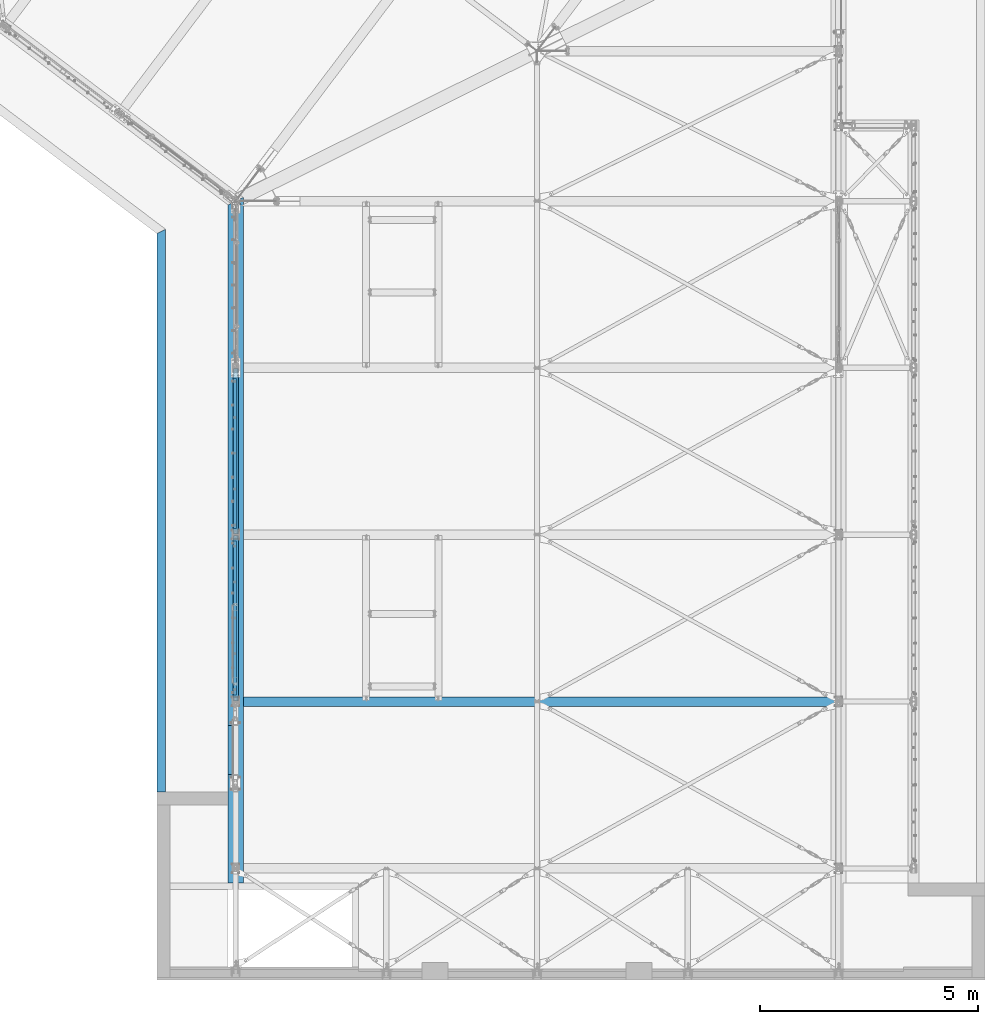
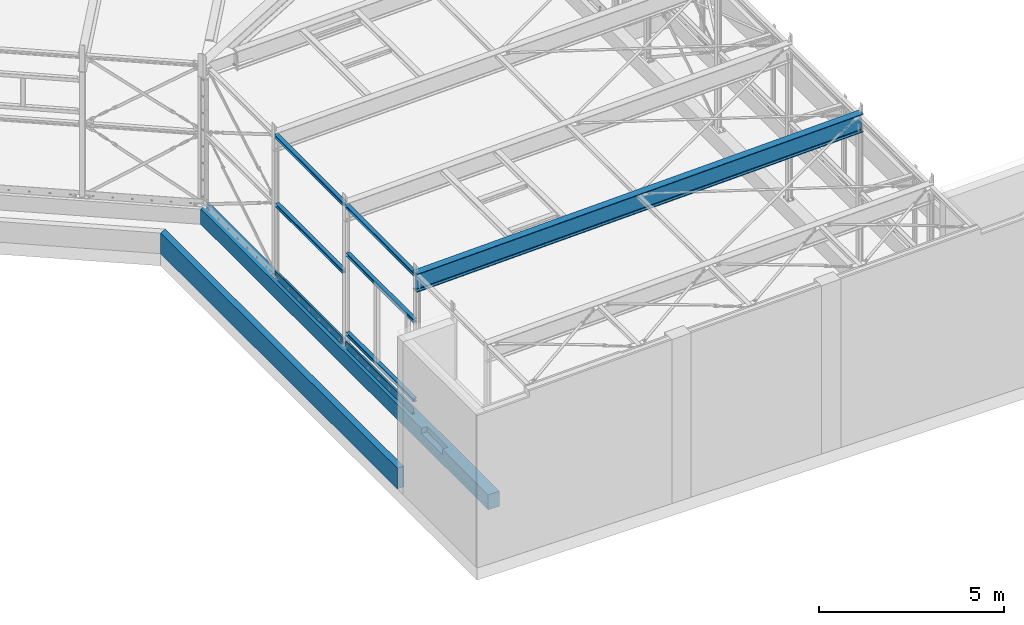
# One storey, part 13 of 476: 9 beams, 1 member, 65 openings.
"""IFC2X3 building model written with IfcOpenShell, lengths in millimetres."""

from ifc_helpers import new_model, entity, si_unit, converted_unit, frame, frame_2d, origin, origin_with_axes, origin_2d, origin_2d_with_axis, place, context, project, spatial, polyline, circle, i_section, l_section, outline, extrude, clip, halfspace, material, element, save


model = new_model("IFC2X3")

# Units and contexts
model_context = context("Model", 3, precision=1e-09, world=origin_with_axes())
ifc_project = project(units=[si_unit("LENGTHUNIT", "METRE", prefix="MILLI"), si_unit("AREAUNIT", "SQUARE_METRE"), si_unit("VOLUMEUNIT", "CUBIC_METRE"), converted_unit("PLANEANGLEUNIT", "DEGREE", entity("IfcPlaneAngleMeasure", 0.01745329), si_unit("PLANEANGLEUNIT", "RADIAN"), dimensions=[0, 0, 0, 0, 0, 0, 0])], contexts=[model_context])

# Site, building, storey
site_placement = place(None, origin_with_axes())
site = spatial("IfcSite", under=ifc_project, at=site_placement, Name="mKR Teilneubau & Sanierung BA1 - Ostfildern", CompositionType="ELEMENT")
building_placement = place(site_placement, origin_with_axes())
building = spatial("IfcBuilding", under=site, at=building_placement, Name="Struktur 1", CompositionType="ELEMENT")
storey_placement = place(building_placement, origin_with_axes())
storey = spatial("IfcBuildingStorey", under=building, at=storey_placement, Name="Default Storey", CompositionType="ELEMENT", Elevation=0.0)

# Beam, openings
ifc_material_1 = material(Name="S235JR")
beam_1_placement = place(None, frame((8165.608780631, -13502.915193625, 983.0), z_axis=(0.0, 1.0, 0.0), x_axis=(-1.0, 0.0, 0.0)))
beam_1 = element("IfcBeam", 1, at=beam_1_placement, inside=storey, material=ifc_material_1, Name="-", ObjectType="-", context=model_context, shape_type="Clipping", body=[
    clip(clip(extrude(i_section(OverallWidth=120.0, OverallDepth=114.0, WebThickness=5.0, FlangeThickness=8.0, FilletRadius=12.0, at=origin_2d()), origin(), (0.0, 0.0, -1.0), 3985.51737069), halfspace(frame((8165.608780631, -983.0, -182.759685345), z_axis=(0.0, 0.0, -1.0), x_axis=(-1.0, 0.0, 0.0)), True)), halfspace(frame((8165.608780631, -983.0, -3802.757685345), z_axis=(0.0, 0.0, 1.0), x_axis=(1.0, 0.0, 0.0)), True)),
])
opening_1_placement = place(beam_1_placement, frame((6.49997598, 48.5, -1672.40127366), z_axis=(0.0, 1.0, 0.0), x_axis=(0.0, 0.0, -1.0)))
element("IfcOpeningElement", 2, at=opening_1_placement, cuts=beam_1, ObjectType="Opening", context=model_context, shape_type="SweptSolid", body=[
    extrude(circle(Radius=6.001, at=frame_2d((0.0, 35.0), x_axis=(1.0, 0.0))), origin(), (0.0, 0.0, 1.0), 9.0),
])
opening_2_placement = place(beam_1_placement, frame((6.49997598, 48.5, -1672.40127366), z_axis=(0.0, 1.0, 0.0), x_axis=(0.0, 0.0, -1.0)))
element("IfcOpeningElement", 3, at=opening_2_placement, cuts=beam_1, ObjectType="Opening", context=model_context, shape_type="SweptSolid", body=[
    extrude(circle(Radius=6.001, at=frame_2d((0.0, -35.0), x_axis=(1.0, 0.0))), origin(), (0.0, 0.0, 1.0), 9.0),
])
opening_3_placement = place(beam_1_placement, frame((-28.50002402, 48.5, -3518.40227366), z_axis=(0.0, -1.0, 0.0), x_axis=(1.0, 0.0, 0.0)))
element("IfcOpeningElement", 4, at=opening_3_placement, cuts=beam_1, ObjectType="Opening", context=model_context, shape_type="SweptSolid", body=[
    extrude(circle(Radius=6.001, at=frame_2d((0.0, 6.001), x_axis=(1.0, 0.0))), origin(), (0.0, 0.0, -1.0), 9.0),
])
opening_4_placement = place(beam_1_placement, frame((41.49997598, 48.5, -3518.40227366), z_axis=(0.0, -1.0, 0.0), x_axis=(1.0, 0.0, 0.0)))
element("IfcOpeningElement", 5, at=opening_4_placement, cuts=beam_1, ObjectType="Opening", context=model_context, shape_type="SweptSolid", body=[
    extrude(circle(Radius=6.001, at=frame_2d((0.0, 6.001), x_axis=(1.0, 0.0))), origin(), (0.0, 0.0, -1.0), 9.0),
])

# Member, openings
member_placement = place(None, frame((7671.078857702, -17405.67387897, 4959.248116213), z_axis=(-0.999548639, 0.0, -0.030041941), x_axis=(0.0, -1.0, 0.0)))
member = element("IfcMember", 6, at=member_placement, inside=storey, material=ifc_material_1, Name="-", ObjectType="-", context=model_context, shape_type="Clipping", body=[
    clip(clip(extrude(i_section(OverallWidth=220.0, OverallDepth=600.0, WebThickness=12.0, FlangeThickness=19.0, FilletRadius=24.0, at=origin_2d()), origin(), (0.0, 0.0, -1.0), 14725.706361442), halfspace(frame((-17405.67387897, -4970.169003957, -288.847755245), z_axis=(0.0, -0.030041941, -0.999548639), x_axis=(-1.0, 0.0, 0.0)), True)), halfspace(frame((-17405.67387897, -5388.142475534, -14195.565970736), z_axis=(0.0, 0.030041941, 0.999548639), x_axis=(1.0, 0.0, 0.0)), True)),
])
opening_5_placement = place(member_placement, frame((-6.5, 183.025662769, -7373.369944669), z_axis=(1.0, 0.0, 0.0), x_axis=(0.0, 1.0, -2.2474e-05)))
element("IfcOpeningElement", 7, at=opening_5_placement, cuts=member, ObjectType="Opening", context=model_context, shape_type="SweptSolid", body=[
    extrude(circle(Radius=7.001, at=origin_2d_with_axis()), origin(), (0.0, 0.0, 1.0), 13.0),
])
opening_6_placement = place(member_placement, frame((-6.5, 183.024539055, -7433.369944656), z_axis=(1.0, 0.0, 0.0), x_axis=(0.0, 1.0, -2.2474e-05)))
element("IfcOpeningElement", 8, at=opening_6_placement, cuts=member, ObjectType="Opening", context=model_context, shape_type="SweptSolid", body=[
    extrude(circle(Radius=7.001, at=origin_2d_with_axis()), origin(), (0.0, 0.0, 1.0), 13.0),
])
opening_7_placement = place(member_placement, frame((-6.5, 183.027099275, -14281.485801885), z_axis=(1.0, 0.0, 0.0), x_axis=(0.0, 1.0, 0.0)))
element("IfcOpeningElement", 9, at=opening_7_placement, cuts=member, ObjectType="Opening", context=model_context, shape_type="SweptSolid", body=[
    extrude(circle(Radius=7.001, at=origin_2d_with_axis()), origin(), (0.0, 0.0, 1.0), 13.0),
])
opening_8_placement = place(member_placement, frame((-6.5, 183.027099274, -14331.485801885), z_axis=(1.0, 0.0, 0.0), x_axis=(0.0, 1.0, 0.0)))
element("IfcOpeningElement", 10, at=opening_8_placement, cuts=member, ObjectType="Opening", context=model_context, shape_type="SweptSolid", body=[
    extrude(circle(Radius=7.001, at=origin_2d_with_axis()), origin(), (0.0, 0.0, 1.0), 13.0),
])
opening_9_placement = place(member_placement, frame((6.5, 183.027099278, -475.254207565), z_axis=(-1.0, 0.0, 0.0), x_axis=(0.0, 1.0, 0.0)))
element("IfcOpeningElement", 11, at=opening_9_placement, cuts=member, ObjectType="Opening", context=model_context, shape_type="SweptSolid", body=[
    extrude(circle(Radius=7.001, at=origin_2d_with_axis()), origin(), (0.0, 0.0, 1.0), 13.0),
])
opening_10_placement = place(member_placement, frame((6.5, 183.027099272, -525.254207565), z_axis=(-1.0, 0.0, 0.0), x_axis=(0.0, 1.0, 0.0)))
element("IfcOpeningElement", 12, at=opening_10_placement, cuts=member, ObjectType="Opening", context=model_context, shape_type="SweptSolid", body=[
    extrude(circle(Radius=7.001, at=origin_2d_with_axis()), origin(), (0.0, 0.0, 1.0), 13.0),
])
opening_11_placement = place(member_placement, frame((52.001, -300.5, -14263.867080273), z_axis=(0.0, -1.0, 0.0), x_axis=(1.0, 0.0, 0.0)))
element("IfcOpeningElement", 13, at=opening_11_placement, cuts=member, ObjectType="Opening", context=model_context, shape_type="SweptSolid", body=[
    extrude(circle(Radius=7.001, at=frame_2d((-7.001, 0.0), x_axis=(1.0, 0.0))), origin(), (0.0, 0.0, -1.0), 20.0),
])
opening_12_placement = place(member_placement, frame((-37.999, -300.5, -14318.867080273), z_axis=(0.0, -1.0, 0.0), x_axis=(1.0, 0.0, 0.0)))
element("IfcOpeningElement", 14, at=opening_12_placement, cuts=member, ObjectType="Opening", context=model_context, shape_type="SweptSolid", body=[
    extrude(circle(Radius=7.001, at=frame_2d((-7.001, 0.0), x_axis=(1.0, 0.0))), origin(), (0.0, 0.0, -1.0), 20.0),
])
opening_13_placement = place(member_placement, frame((-37.999, -300.5, -14263.867080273), z_axis=(0.0, -1.0, 0.0), x_axis=(1.0, 0.0, 0.0)))
element("IfcOpeningElement", 15, at=opening_13_placement, cuts=member, ObjectType="Opening", context=model_context, shape_type="SweptSolid", body=[
    extrude(circle(Radius=7.001, at=frame_2d((-7.001, 0.0), x_axis=(1.0, 0.0))), origin(), (0.0, 0.0, -1.0), 20.0),
])
opening_14_placement = place(member_placement, frame((52.001, -300.5, -14318.867080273), z_axis=(0.0, -1.0, 0.0), x_axis=(1.0, 0.0, 0.0)))
element("IfcOpeningElement", 16, at=opening_14_placement, cuts=member, ObjectType="Opening", context=model_context, shape_type="SweptSolid", body=[
    extrude(circle(Radius=7.001, at=frame_2d((-7.001, 0.0), x_axis=(1.0, 0.0))), origin(), (0.0, 0.0, -1.0), 20.0),
])
opening_15_placement = place(member_placement, frame((6.5, 247.888062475, -14352.955309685), z_axis=(-1.0, 0.0, 0.0), x_axis=(0.0, 0.030041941, 0.999548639)))
element("IfcOpeningElement", 17, at=opening_15_placement, cuts=member, ObjectType="Opening", context=model_context, shape_type="SweptSolid", body=[
    extrude(circle(Radius=7.001, at=origin_2d_with_axis()), origin(), (0.0, 0.0, 1.0), 13.0),
])
opening_16_placement = place(member_placement, frame((6.5, -247.888062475, -14338.054506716), z_axis=(-1.0, 0.0, 0.0), x_axis=(0.0, 0.030041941, 0.999548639)))
element("IfcOpeningElement", 18, at=opening_16_placement, cuts=member, ObjectType="Opening", context=model_context, shape_type="SweptSolid", body=[
    extrude(circle(Radius=7.001, at=origin_2d_with_axis()), origin(), (0.0, 0.0, 1.0), 13.0),
])
opening_17_placement = place(member_placement, frame((37.999, -300.5, -512.635427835), z_axis=(0.0, -1.0, 0.0), x_axis=(1.0, 0.0, 0.0)))
element("IfcOpeningElement", 19, at=opening_17_placement, cuts=member, ObjectType="Opening", context=model_context, shape_type="SweptSolid", body=[
    extrude(circle(Radius=7.001, at=frame_2d((7.001, 0.0), x_axis=(1.0, 0.0))), origin(), (0.0, 0.0, -1.0), 20.0),
])
opening_18_placement = place(member_placement, frame((-52.001, -300.5, -512.635427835), z_axis=(0.0, -1.0, 0.0), x_axis=(1.0, 0.0, 0.0)))
element("IfcOpeningElement", 20, at=opening_18_placement, cuts=member, ObjectType="Opening", context=model_context, shape_type="SweptSolid", body=[
    extrude(circle(Radius=7.001, at=frame_2d((7.001, 0.0), x_axis=(1.0, 0.0))), origin(), (0.0, 0.0, -1.0), 20.0),
])
opening_19_placement = place(member_placement, frame((37.999, -300.5, -457.635427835), z_axis=(0.0, -1.0, 0.0), x_axis=(1.0, 0.0, 0.0)))
element("IfcOpeningElement", 21, at=opening_19_placement, cuts=member, ObjectType="Opening", context=model_context, shape_type="SweptSolid", body=[
    extrude(circle(Radius=7.001, at=frame_2d((7.001, 0.0), x_axis=(1.0, 0.0))), origin(), (0.0, 0.0, -1.0), 20.0),
])
opening_20_placement = place(member_placement, frame((-52.001, -300.5, -457.635427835), z_axis=(0.0, -1.0, 0.0), x_axis=(1.0, 0.0, 0.0)))
element("IfcOpeningElement", 22, at=opening_20_placement, cuts=member, ObjectType="Opening", context=model_context, shape_type="SweptSolid", body=[
    extrude(circle(Radius=7.001, at=frame_2d((7.001, 0.0), x_axis=(1.0, 0.0))), origin(), (0.0, 0.0, -1.0), 20.0),
])
opening_21_placement = place(member_placement, frame((-6.5, 247.888062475, -457.683526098), z_axis=(1.0, 0.0, 0.0), x_axis=(0.0, -0.030041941, -0.999548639)))
element("IfcOpeningElement", 23, at=opening_21_placement, cuts=member, ObjectType="Opening", context=model_context, shape_type="SweptSolid", body=[
    extrude(circle(Radius=7.001, at=origin_2d_with_axis()), origin(), (0.0, 0.0, 1.0), 13.0),
])
opening_22_placement = place(member_placement, frame((-6.5, -247.888062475, -442.782723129), z_axis=(1.0, 0.0, 0.0), x_axis=(0.0, -0.030041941, -0.999548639)))
element("IfcOpeningElement", 24, at=opening_22_placement, cuts=member, ObjectType="Opening", context=model_context, shape_type="SweptSolid", body=[
    extrude(circle(Radius=7.001, at=origin_2d_with_axis()), origin(), (0.0, 0.0, 1.0), 13.0),
])

# Beam, openings
beam_2_placement = place(None, frame((8114.708764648, -9845.67387897, 594.5), z_axis=(0.0, -1.0, 0.0), x_axis=(1.0, 0.0, 0.0)))
beam_2 = element("IfcBeam", 25, at=beam_2_placement, inside=storey, material=ifc_material_1, Name="-", ObjectType="-", context=model_context, shape_type="SweptSolid", body=[
    extrude(l_section(Depth=250.0, Width=90.0, Thickness=10.0, FilletRadius=15.0, EdgeRadius=7.5, at=frame_2d((30.5, 29.4))), origin(), (0.0, 0.0, 1.0), 3660.0),
])
opening_23_placement = place(beam_2_placement, frame((-115.7, 25.501, 165.001), z_axis=(-1.0, 0.0, 0.0), x_axis=(0.0, 0.0, -1.0)))
element("IfcOpeningElement", 26, at=opening_23_placement, cuts=beam_2, ObjectType="Opening", context=model_context, shape_type="SweptSolid", body=[
    extrude(outline(polyline([(0.0, 0.0), (215.002, 0.0), (215.002, 170.002), (0.0, 170.002), (0.0, 0.0)])), origin(), (0.0, 0.0, -1.0), 290.2),
])
opening_24_placement = place(beam_2_placement, frame((-115.7, -144.501, 3594.999), z_axis=(-1.0, 0.0, 0.0), x_axis=(0.0, 0.0, 1.0)))
element("IfcOpeningElement", 27, at=opening_24_placement, cuts=beam_2, ObjectType="Opening", context=model_context, shape_type="SweptSolid", body=[
    extrude(outline(polyline([(0.0, 0.0), (115.002, 0.0), (115.002, 130.002), (0.0, 130.002), (0.0, 0.0)])), origin(), (0.0, 0.0, -1.0), 290.2),
])
opening_25_placement = place(beam_2_placement, frame((34.4, -95.0, 1880.0), z_axis=(0.0, 1.0, 0.0), x_axis=(0.0, 0.0, 1.0)))
element("IfcOpeningElement", 28, at=opening_25_placement, cuts=beam_2, ObjectType="Opening", context=model_context, shape_type="SweptSolid", body=[
    extrude(circle(Radius=6.001, at=origin_2d_with_axis()), origin(), (0.0, 0.0, 1.0), 11.0),
])
opening_26_placement = place(beam_2_placement, frame((34.4, -95.0, 1880.0), z_axis=(0.0, 1.0, 0.0), x_axis=(0.0, 0.0, 1.0)))
element("IfcOpeningElement", 29, at=opening_26_placement, cuts=beam_2, ObjectType="Opening", context=model_context, shape_type="SweptSolid", body=[
    extrude(circle(Radius=6.001, at=frame_2d((820.0, 0.0), x_axis=(1.0, 0.0))), origin(), (0.0, 0.0, 1.0), 11.0),
])
opening_27_placement = place(beam_2_placement, frame((34.4, -95.0, 1880.0), z_axis=(0.0, 1.0, 0.0), x_axis=(0.0, 0.0, 1.0)))
element("IfcOpeningElement", 30, at=opening_27_placement, cuts=beam_2, ObjectType="Opening", context=model_context, shape_type="SweptSolid", body=[
    extrude(circle(Radius=6.001, at=frame_2d((-820.0, 0.0), x_axis=(1.0, 0.0))), origin(), (0.0, 0.0, 1.0), 11.0),
])
opening_28_placement = place(beam_2_placement, frame((34.4, -95.0, 1880.0), z_axis=(0.0, 1.0, 0.0), x_axis=(0.0, 0.0, 1.0)))
element("IfcOpeningElement", 31, at=opening_28_placement, cuts=beam_2, ObjectType="Opening", context=model_context, shape_type="SweptSolid", body=[
    extrude(circle(Radius=6.001, at=frame_2d((1640.0, 0.0), x_axis=(1.0, 0.0))), origin(), (0.0, 0.0, 1.0), 11.0),
])
opening_29_placement = place(beam_2_placement, frame((34.4, -95.0, 1880.0), z_axis=(0.0, 1.0, 0.0), x_axis=(0.0, 0.0, 1.0)))
element("IfcOpeningElement", 32, at=opening_29_placement, cuts=beam_2, ObjectType="Opening", context=model_context, shape_type="SweptSolid", body=[
    extrude(circle(Radius=6.001, at=frame_2d((-1640.0, 0.0), x_axis=(1.0, 0.0))), origin(), (0.0, 0.0, 1.0), 11.0),
])
opening_30_placement = place(beam_2_placement, frame((-5.1, 13.5, 1880.0), z_axis=(-1.0, 0.0, 0.0), x_axis=(0.0, 0.0, 1.0)))
element("IfcOpeningElement", 33, at=opening_30_placement, cuts=beam_2, ObjectType="Opening", context=model_context, shape_type="SweptSolid", body=[
    extrude(circle(Radius=7.001, at=origin_2d_with_axis()), origin(), (0.0, 0.0, 1.0), 11.0),
])
opening_31_placement = place(beam_2_placement, frame((-5.1, 13.5, 1880.0), z_axis=(-1.0, 0.0, 0.0), x_axis=(0.0, 0.0, 1.0)))
element("IfcOpeningElement", 34, at=opening_31_placement, cuts=beam_2, ObjectType="Opening", context=model_context, shape_type="SweptSolid", body=[
    extrude(circle(Radius=7.001, at=frame_2d((550.0, 0.0), x_axis=(1.0, 0.0))), origin(), (0.0, 0.0, 1.0), 11.0),
])
opening_32_placement = place(beam_2_placement, frame((-5.1, 13.5, 1880.0), z_axis=(-1.0, 0.0, 0.0), x_axis=(0.0, 0.0, 1.0)))
element("IfcOpeningElement", 35, at=opening_32_placement, cuts=beam_2, ObjectType="Opening", context=model_context, shape_type="SweptSolid", body=[
    extrude(circle(Radius=7.001, at=frame_2d((-550.0, 0.0), x_axis=(1.0, 0.0))), origin(), (0.0, 0.0, 1.0), 11.0),
])
opening_33_placement = place(beam_2_placement, frame((-5.1, 13.5, 1880.0), z_axis=(-1.0, 0.0, 0.0), x_axis=(0.0, 0.0, 1.0)))
element("IfcOpeningElement", 36, at=opening_33_placement, cuts=beam_2, ObjectType="Opening", context=model_context, shape_type="SweptSolid", body=[
    extrude(circle(Radius=7.001, at=frame_2d((1100.0, 0.0), x_axis=(1.0, 0.0))), origin(), (0.0, 0.0, 1.0), 11.0),
])
opening_34_placement = place(beam_2_placement, frame((-5.1, 13.5, 1880.0), z_axis=(-1.0, 0.0, 0.0), x_axis=(0.0, 0.0, 1.0)))
element("IfcOpeningElement", 37, at=opening_34_placement, cuts=beam_2, ObjectType="Opening", context=model_context, shape_type="SweptSolid", body=[
    extrude(circle(Radius=7.001, at=frame_2d((-1100.0, 0.0), x_axis=(1.0, 0.0))), origin(), (0.0, 0.0, 1.0), 11.0),
])
opening_35_placement = place(beam_2_placement, frame((-5.1, 13.5, 1880.0), z_axis=(-1.0, 0.0, 0.0), x_axis=(0.0, 0.0, 1.0)))
element("IfcOpeningElement", 38, at=opening_35_placement, cuts=beam_2, ObjectType="Opening", context=model_context, shape_type="SweptSolid", body=[
    extrude(circle(Radius=7.001, at=frame_2d((1650.0, 0.0), x_axis=(1.0, 0.0))), origin(), (0.0, 0.0, 1.0), 11.0),
])
opening_36_placement = place(beam_2_placement, frame((-5.1, 13.5, 1880.0), z_axis=(-1.0, 0.0, 0.0), x_axis=(0.0, 0.0, 1.0)))
element("IfcOpeningElement", 39, at=opening_36_placement, cuts=beam_2, ObjectType="Opening", context=model_context, shape_type="SweptSolid", body=[
    extrude(circle(Radius=7.001, at=frame_2d((-1650.0, 0.0), x_axis=(1.0, 0.0))), origin(), (0.0, 0.0, 1.0), 11.0),
])

# Beam
beam_3_placement = place(None, frame((8165.608780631, -9682.915193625, 2912.000017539), z_axis=(0.0, 1.0, 0.0), x_axis=(-1.0, 0.0, 0.0)))
element("IfcBeam", 40, at=beam_3_placement, inside=storey, material=ifc_material_1, Name="-", ObjectType="-", context=model_context, shape_type="Clipping", body=[
    clip(clip(extrude(i_section(OverallWidth=120.0, OverallDepth=114.0, WebThickness=5.0, FlangeThickness=8.0, FilletRadius=12.0, at=origin_2d()), origin(), (0.0, 0.0, -1.0), 3985.51737069), halfspace(frame((8165.608780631, -2912.000017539, -182.759685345), z_axis=(0.0, 0.0, -1.0), x_axis=(-1.0, 0.0, 0.0)), True)), halfspace(frame((8165.608780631, -2912.000017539, -3802.757685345), z_axis=(0.0, 0.0, 1.0), x_axis=(1.0, 0.0, 0.0)), True)),
])

# Beam, openings
beam_4_placement = place(None, frame((8165.608780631, -13502.915193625, 3597.0), z_axis=(0.0, 1.0, 0.0), x_axis=(-1.0, 0.0, 0.0)))
beam_4 = element("IfcBeam", 41, at=beam_4_placement, inside=storey, material=ifc_material_1, Name="-", ObjectType="-", context=model_context, shape_type="Clipping", body=[
    clip(clip(extrude(i_section(OverallWidth=120.0, OverallDepth=114.0, WebThickness=5.0, FlangeThickness=8.0, FilletRadius=12.0, at=origin_2d()), origin(), (0.0, 0.0, -1.0), 3985.51737069), halfspace(frame((8165.608780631, -3597.0, -3802.757685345), z_axis=(0.0, 0.0, 1.0), x_axis=(1.0, 0.0, 0.0)), True)), halfspace(frame((8165.608780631, -3597.0, -182.759685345), z_axis=(0.0, 0.0, -1.0), x_axis=(-1.0, 0.0, 0.0)), True)),
])
opening_37_placement = place(beam_4_placement, frame((6.49997598, -57.5, -1672.40127366), z_axis=(0.0, 1.0, 0.0), x_axis=(0.0, 0.0, -1.0)))
element("IfcOpeningElement", 42, at=opening_37_placement, cuts=beam_4, ObjectType="Opening", context=model_context, shape_type="SweptSolid", body=[
    extrude(circle(Radius=6.001, at=frame_2d((0.0, 35.0), x_axis=(1.0, 0.0))), origin(), (0.0, 0.0, 1.0), 9.0),
])
opening_38_placement = place(beam_4_placement, frame((6.49997598, -57.5, -1672.40127366), z_axis=(0.0, 1.0, 0.0), x_axis=(0.0, 0.0, -1.0)))
element("IfcOpeningElement", 43, at=opening_38_placement, cuts=beam_4, ObjectType="Opening", context=model_context, shape_type="SweptSolid", body=[
    extrude(circle(Radius=6.001, at=frame_2d((0.0, -35.0), x_axis=(1.0, 0.0))), origin(), (0.0, 0.0, 1.0), 9.0),
])
opening_39_placement = place(beam_4_placement, frame((-28.50002402, -57.5, -3518.40227366), z_axis=(0.0, -1.0, 0.0), x_axis=(1.0, 0.0, 0.0)))
element("IfcOpeningElement", 44, at=opening_39_placement, cuts=beam_4, ObjectType="Opening", context=model_context, shape_type="SweptSolid", body=[
    extrude(circle(Radius=6.001, at=frame_2d((0.0, 6.001), x_axis=(1.0, 0.0))), origin(), (0.0, 0.0, -1.0), 9.0),
])
opening_40_placement = place(beam_4_placement, frame((41.49997598, -57.5, -3518.40227366), z_axis=(0.0, -1.0, 0.0), x_axis=(1.0, 0.0, 0.0)))
element("IfcOpeningElement", 45, at=opening_40_placement, cuts=beam_4, ObjectType="Opening", context=model_context, shape_type="SweptSolid", body=[
    extrude(circle(Radius=6.001, at=frame_2d((0.0, 6.001), x_axis=(1.0, 0.0))), origin(), (0.0, 0.0, -1.0), 9.0),
])

ifc_material_2 = material(Name="C25/30")
beam_5_placement = place(None, frame((8165.608764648, -21560.673034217, 250.0), z_axis=(0.0, -1.0, 0.0), x_axis=(1.0, 0.0, 0.0)))
beam_5 = element("IfcBeam", 46, at=beam_5_placement, inside=storey, material=ifc_material_2, Name="-", ObjectType="-", context=model_context, shape_type="Clipping", body=[
    clip(extrude(outline(polyline([(175.0, -250.0), (175.0, 250.0), (-175.0, 250.0), (-175.0, -250.0), (175.0, -250.0)])), origin(), (0.0, 0.0, -1.0), 16319.288062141), halfspace(frame((-4170.304017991, -250.0, -13535.759822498), z_axis=(0.445682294, 0.0, 0.895191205), x_axis=(0.895191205, 0.0, -0.445682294)), True)),
])
opening_41_placement = place(beam_5_placement, frame((175.0, 80.0, 0.0), z_axis=(0.0, 1.0, 0.0), x_axis=(1.0, 0.0, 0.0)))
element("IfcOpeningElement", 47, at=opening_41_placement, cuts=beam_5, ObjectType="Opening", context=model_context, shape_type="SweptSolid", body=[
    extrude(outline(polyline([(-350.000938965, 2479.999), (-174.999061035, 2479.999), (-174.999061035, 3610.001), (-350.000938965, 3610.001), (-350.000938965, 2479.999)])), origin(), (0.0, 0.0, 1.0), 270.1),
])
opening_42_placement = place(beam_5_placement, frame((175.0, 50.0, -15699.125701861), z_axis=(0.0, 1.0, 0.0), x_axis=(1.0, 0.0, 0.0)))
element("IfcOpeningElement", 48, at=opening_42_placement, cuts=beam_5, ObjectType="Opening", context=model_context, shape_type="SweptSolid", body=[
    extrude(outline(polyline([(-188.650285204, -227.975448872), (-54.374005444, -161.113795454), (-161.352116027, 53.727177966), (-295.628395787, -13.134475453), (-188.650285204, -227.975448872)])), origin(), (0.0, 0.0, 1.0), 300.1),
])
opening_43_placement = place(beam_5_placement, frame((175.0, 350.1, -15699.125701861), z_axis=(0.0, -1.0, 0.0), x_axis=(0.0, 0.0, -1.0)))
element("IfcOpeningElement", 49, at=opening_43_placement, cuts=beam_5, ObjectType="Opening", context=model_context, shape_type="SweptSolid", body=[
    extrude(outline(polyline([(-3784.125546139, -99.974977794), (-4024.127546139, -99.974977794), (-4024.127546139, -249.976977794), (-3784.125546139, -249.976977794), (-3784.125546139, -99.974977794)])), origin(), (0.0, 0.0, 1.0), 300.1),
])

beam_6_placement = place(None, frame((8165.608780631, -9682.915193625, 5157.22121182), z_axis=(0.0, 1.0, 0.0), x_axis=(-0.999548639, 0.0, -0.030041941)))
beam_6 = element("IfcBeam", 50, at=beam_6_placement, inside=storey, material=ifc_material_1, Name="-", ObjectType="-", context=model_context, shape_type="Clipping", body=[
    clip(clip(extrude(i_section(OverallWidth=120.0, OverallDepth=114.0, WebThickness=5.0, FlangeThickness=8.0, FilletRadius=12.0, at=origin_2d()), origin(), (0.0, 0.0, -1.0), 3985.51737069), halfspace(frame((8316.856080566, -4909.582703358, -3884.757685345), z_axis=(0.0, 0.0, 1.0), x_axis=(0.999548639, 0.030041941, 0.0)), True)), halfspace(frame((8316.856080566, -4909.582703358, -100.759685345), z_axis=(0.0, 0.0, -1.0), x_axis=(-0.999548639, -0.030041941, 0.0)), True)),
])
opening_44_placement = place(beam_6_placement, frame((0.0, -1.332627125, -3902.758685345), z_axis=(0.0, 1.0, 0.0), x_axis=(0.0, 0.0, -1.0)))
element("IfcOpeningElement", 51, at=opening_44_placement, cuts=beam_6, ObjectType="Opening", context=model_context, shape_type="SweptSolid", body=[
    extrude(outline(polyline([(-80.0, -45.0), (-80.0, -75.0), (-18.0, -75.0), (-18.0, -45.0), (-80.0, -45.0)])), origin(), (0.0, 0.0, 1.0), 59.665254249),
])
opening_45_placement = place(beam_6_placement, frame((0.0, -58.353598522, -3902.758685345), z_axis=(0.0, 1.0, 0.0), x_axis=(0.0, 0.0, -1.0)))
element("IfcOpeningElement", 52, at=opening_45_placement, cuts=beam_6, ObjectType="Opening", context=model_context, shape_type="SweptSolid", body=[
    extrude(outline(polyline([(-80.0, -45.0), (-80.0, -75.0), (-18.0, -75.0), (-18.0, -45.0), (-80.0, -45.0)])), origin(), (0.0, 0.0, 1.0), 59.707197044),
])
opening_46_placement = place(beam_6_placement, frame((0.0, 58.353598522, -82.758685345), z_axis=(0.0, -1.0, 0.0), x_axis=(0.0, 0.0, 1.0)))
element("IfcOpeningElement", 53, at=opening_46_placement, cuts=beam_6, ObjectType="Opening", context=model_context, shape_type="SweptSolid", body=[
    extrude(outline(polyline([(-80.0, -45.0), (-80.0, -75.0), (-18.0, -75.0), (-18.0, -45.0), (-80.0, -45.0)])), origin(), (0.0, 0.0, 1.0), 59.707197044),
])
opening_47_placement = place(beam_6_placement, frame((0.0, 1.332627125, -82.758685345), z_axis=(0.0, -1.0, 0.0), x_axis=(0.0, 0.0, 1.0)))
element("IfcOpeningElement", 54, at=opening_47_placement, cuts=beam_6, ObjectType="Opening", context=model_context, shape_type="SweptSolid", body=[
    extrude(outline(polyline([(-80.0, -45.0), (-80.0, -75.0), (-18.0, -75.0), (-18.0, -45.0), (-80.0, -45.0)])), origin(), (0.0, 0.0, 1.0), 59.665254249),
])

beam_7_placement = place(None, frame((8165.608780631, -13502.915193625, 5157.22121182), z_axis=(0.0, 1.0, 0.0), x_axis=(-0.999548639, 0.0, -0.030041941)))
beam_7 = element("IfcBeam", 55, at=beam_7_placement, inside=storey, material=ifc_material_1, Name="-", ObjectType="-", context=model_context, shape_type="Clipping", body=[
    clip(clip(extrude(i_section(OverallWidth=120.0, OverallDepth=114.0, WebThickness=5.0, FlangeThickness=8.0, FilletRadius=12.0, at=origin_2d()), origin(), (0.0, 0.0, -1.0), 3985.51737069), halfspace(frame((8316.856080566, -4909.582703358, -3884.757685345), z_axis=(0.0, 0.0, 1.0), x_axis=(0.999548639, 0.030041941, 0.0)), True)), halfspace(frame((8316.856080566, -4909.582703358, -100.759685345), z_axis=(0.0, 0.0, -1.0), x_axis=(-0.999548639, -0.030041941, 0.0)), True)),
])
opening_48_placement = place(beam_7_placement, frame((0.0, -1.332627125, -3902.758685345), z_axis=(0.0, 1.0, 0.0), x_axis=(0.0, 0.0, -1.0)))
element("IfcOpeningElement", 56, at=opening_48_placement, cuts=beam_7, ObjectType="Opening", context=model_context, shape_type="SweptSolid", body=[
    extrude(outline(polyline([(-80.0, -45.0), (-80.0, -75.0), (-18.0, -75.0), (-18.0, -45.0), (-80.0, -45.0)])), origin(), (0.0, 0.0, 1.0), 59.665254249),
])
opening_49_placement = place(beam_7_placement, frame((0.0, -58.353598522, -3902.758685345), z_axis=(0.0, 1.0, 0.0), x_axis=(0.0, 0.0, -1.0)))
element("IfcOpeningElement", 57, at=opening_49_placement, cuts=beam_7, ObjectType="Opening", context=model_context, shape_type="SweptSolid", body=[
    extrude(outline(polyline([(-80.0, -45.0), (-80.0, -75.0), (-18.0, -75.0), (-18.0, -45.0), (-80.0, -45.0)])), origin(), (0.0, 0.0, 1.0), 59.707197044),
])
opening_50_placement = place(beam_7_placement, frame((0.0, 58.353598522, -82.758685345), z_axis=(0.0, -1.0, 0.0), x_axis=(0.0, 0.0, 1.0)))
element("IfcOpeningElement", 58, at=opening_50_placement, cuts=beam_7, ObjectType="Opening", context=model_context, shape_type="SweptSolid", body=[
    extrude(outline(polyline([(-80.0, -45.0), (-80.0, -75.0), (-18.0, -75.0), (-18.0, -45.0), (-80.0, -45.0)])), origin(), (0.0, 0.0, 1.0), 59.707197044),
])
opening_51_placement = place(beam_7_placement, frame((0.0, 1.332627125, -82.758685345), z_axis=(0.0, -1.0, 0.0), x_axis=(0.0, 0.0, 1.0)))
element("IfcOpeningElement", 59, at=opening_51_placement, cuts=beam_7, ObjectType="Opening", context=model_context, shape_type="SweptSolid", body=[
    extrude(outline(polyline([(-80.0, -45.0), (-80.0, -75.0), (-18.0, -75.0), (-18.0, -45.0), (-80.0, -45.0)])), origin(), (0.0, 0.0, 1.0), 59.665254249),
])

# Beam
beam_8_placement = place(None, frame((6460.608764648, -19475.316467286, 340.0), z_axis=(0.0, -1.0, 0.0), x_axis=(1.0, 0.0, 0.0)))
element("IfcBeam", 60, at=beam_8_placement, inside=storey, material=ifc_material_2, Name="-", ObjectType="-", context=model_context, shape_type="Clipping", body=[
    clip(extrude(outline(polyline([(100.0, -340.0), (100.0, 340.0), (-100.0, 340.0), (-100.0, -340.0), (100.0, -340.0)])), origin(), (0.0, 0.0, -1.0), 13560.35449074), halfspace(frame((-2527.822247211, -340.0, -11575.936916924), z_axis=(0.445680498, 0.0, 0.895192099), x_axis=(0.895192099, 0.0, -0.445680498)), True)),
])

# Beam, openings
beam_9_placement = place(None, frame((8114.708764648, -13665.67387897, 594.5), z_axis=(0.0, -1.0, 0.0), x_axis=(1.0, 0.0, 0.0)))
beam_9 = element("IfcBeam", 61, at=beam_9_placement, inside=storey, material=ifc_material_1, Name="-", ObjectType="-", context=model_context, shape_type="SweptSolid", body=[
    extrude(l_section(Depth=250.0, Width=90.0, Thickness=10.0, FilletRadius=15.0, EdgeRadius=7.5, at=frame_2d((30.5, 29.4))), origin(), (0.0, 0.0, 1.0), 3660.0),
])
opening_52_placement = place(beam_9_placement, frame((-115.7, -14.499, 65.001), z_axis=(-1.0, 0.0, 0.0), x_axis=(0.0, 0.0, -1.0)))
element("IfcOpeningElement", 62, at=opening_52_placement, cuts=beam_9, ObjectType="Opening", context=model_context, shape_type="SweptSolid", body=[
    extrude(outline(polyline([(0.0, 0.0), (115.002, 0.0), (115.002, 130.002), (0.0, 130.002), (0.0, 0.0)])), origin(), (0.0, 0.0, -1.0), 290.2),
])
opening_53_placement = place(beam_9_placement, frame((-115.7, -144.501, 3594.999), z_axis=(-1.0, 0.0, 0.0), x_axis=(0.0, 0.0, 1.0)))
element("IfcOpeningElement", 63, at=opening_53_placement, cuts=beam_9, ObjectType="Opening", context=model_context, shape_type="SweptSolid", body=[
    extrude(outline(polyline([(0.0, 0.0), (115.002, 0.0), (115.002, 130.002), (0.0, 130.002), (0.0, 0.0)])), origin(), (0.0, 0.0, -1.0), 290.2),
])
opening_54_placement = place(beam_9_placement, frame((34.4, -95.0, 1830.0), z_axis=(0.0, 1.0, 0.0), x_axis=(0.0, 0.0, 1.0)))
element("IfcOpeningElement", 64, at=opening_54_placement, cuts=beam_9, ObjectType="Opening", context=model_context, shape_type="SweptSolid", body=[
    extrude(circle(Radius=6.001, at=origin_2d_with_axis()), origin(), (0.0, 0.0, 1.0), 11.0),
])
opening_55_placement = place(beam_9_placement, frame((34.4, -95.0, 1830.0), z_axis=(0.0, 1.0, 0.0), x_axis=(0.0, 0.0, 1.0)))
element("IfcOpeningElement", 65, at=opening_55_placement, cuts=beam_9, ObjectType="Opening", context=model_context, shape_type="SweptSolid", body=[
    extrude(circle(Radius=6.001, at=frame_2d((820.0, 0.0), x_axis=(1.0, 0.0))), origin(), (0.0, 0.0, 1.0), 11.0),
])
opening_56_placement = place(beam_9_placement, frame((34.4, -95.0, 1830.0), z_axis=(0.0, 1.0, 0.0), x_axis=(0.0, 0.0, 1.0)))
element("IfcOpeningElement", 66, at=opening_56_placement, cuts=beam_9, ObjectType="Opening", context=model_context, shape_type="SweptSolid", body=[
    extrude(circle(Radius=6.001, at=frame_2d((-820.0, 0.0), x_axis=(1.0, 0.0))), origin(), (0.0, 0.0, 1.0), 11.0),
])
opening_57_placement = place(beam_9_placement, frame((34.4, -95.0, 1830.0), z_axis=(0.0, 1.0, 0.0), x_axis=(0.0, 0.0, 1.0)))
element("IfcOpeningElement", 67, at=opening_57_placement, cuts=beam_9, ObjectType="Opening", context=model_context, shape_type="SweptSolid", body=[
    extrude(circle(Radius=6.001, at=frame_2d((1640.0, 0.0), x_axis=(1.0, 0.0))), origin(), (0.0, 0.0, 1.0), 11.0),
])
opening_58_placement = place(beam_9_placement, frame((34.4, -95.0, 1830.0), z_axis=(0.0, 1.0, 0.0), x_axis=(0.0, 0.0, 1.0)))
element("IfcOpeningElement", 68, at=opening_58_placement, cuts=beam_9, ObjectType="Opening", context=model_context, shape_type="SweptSolid", body=[
    extrude(circle(Radius=6.001, at=frame_2d((-1640.0, 0.0), x_axis=(1.0, 0.0))), origin(), (0.0, 0.0, 1.0), 11.0),
])
opening_59_placement = place(beam_9_placement, frame((-5.1, 13.5, 1830.0), z_axis=(-1.0, 0.0, 0.0), x_axis=(0.0, 0.0, 1.0)))
element("IfcOpeningElement", 69, at=opening_59_placement, cuts=beam_9, ObjectType="Opening", context=model_context, shape_type="SweptSolid", body=[
    extrude(circle(Radius=7.001, at=origin_2d_with_axis()), origin(), (0.0, 0.0, 1.0), 11.0),
])
opening_60_placement = place(beam_9_placement, frame((-5.1, 13.5, 1830.0), z_axis=(-1.0, 0.0, 0.0), x_axis=(0.0, 0.0, 1.0)))
element("IfcOpeningElement", 70, at=opening_60_placement, cuts=beam_9, ObjectType="Opening", context=model_context, shape_type="SweptSolid", body=[
    extrude(circle(Radius=7.001, at=frame_2d((570.0, 0.0), x_axis=(1.0, 0.0))), origin(), (0.0, 0.0, 1.0), 11.0),
])
opening_61_placement = place(beam_9_placement, frame((-5.1, 13.5, 1830.0), z_axis=(-1.0, 0.0, 0.0), x_axis=(0.0, 0.0, 1.0)))
element("IfcOpeningElement", 71, at=opening_61_placement, cuts=beam_9, ObjectType="Opening", context=model_context, shape_type="SweptSolid", body=[
    extrude(circle(Radius=7.001, at=frame_2d((-570.0, 0.0), x_axis=(1.0, 0.0))), origin(), (0.0, 0.0, 1.0), 11.0),
])
opening_62_placement = place(beam_9_placement, frame((-5.1, 13.5, 1830.0), z_axis=(-1.0, 0.0, 0.0), x_axis=(0.0, 0.0, 1.0)))
element("IfcOpeningElement", 72, at=opening_62_placement, cuts=beam_9, ObjectType="Opening", context=model_context, shape_type="SweptSolid", body=[
    extrude(circle(Radius=7.001, at=frame_2d((1140.0, 0.0), x_axis=(1.0, 0.0))), origin(), (0.0, 0.0, 1.0), 11.0),
])
opening_63_placement = place(beam_9_placement, frame((-5.1, 13.5, 1830.0), z_axis=(-1.0, 0.0, 0.0), x_axis=(0.0, 0.0, 1.0)))
element("IfcOpeningElement", 73, at=opening_63_placement, cuts=beam_9, ObjectType="Opening", context=model_context, shape_type="SweptSolid", body=[
    extrude(circle(Radius=7.001, at=frame_2d((-1140.0, 0.0), x_axis=(1.0, 0.0))), origin(), (0.0, 0.0, 1.0), 11.0),
])
opening_64_placement = place(beam_9_placement, frame((-5.1, 13.5, 1830.0), z_axis=(-1.0, 0.0, 0.0), x_axis=(0.0, 0.0, 1.0)))
element("IfcOpeningElement", 74, at=opening_64_placement, cuts=beam_9, ObjectType="Opening", context=model_context, shape_type="SweptSolid", body=[
    extrude(circle(Radius=7.001, at=frame_2d((1710.0, 0.0), x_axis=(1.0, 0.0))), origin(), (0.0, 0.0, 1.0), 11.0),
])
opening_65_placement = place(beam_9_placement, frame((-5.1, 13.5, 1830.0), z_axis=(-1.0, 0.0, 0.0), x_axis=(0.0, 0.0, 1.0)))
element("IfcOpeningElement", 75, at=opening_65_placement, cuts=beam_9, ObjectType="Opening", context=model_context, shape_type="SweptSolid", body=[
    extrude(circle(Radius=7.001, at=frame_2d((-1710.0, 0.0), x_axis=(1.0, 0.0))), origin(), (0.0, 0.0, 1.0), 11.0),
])

save(model, "model.ifc")
